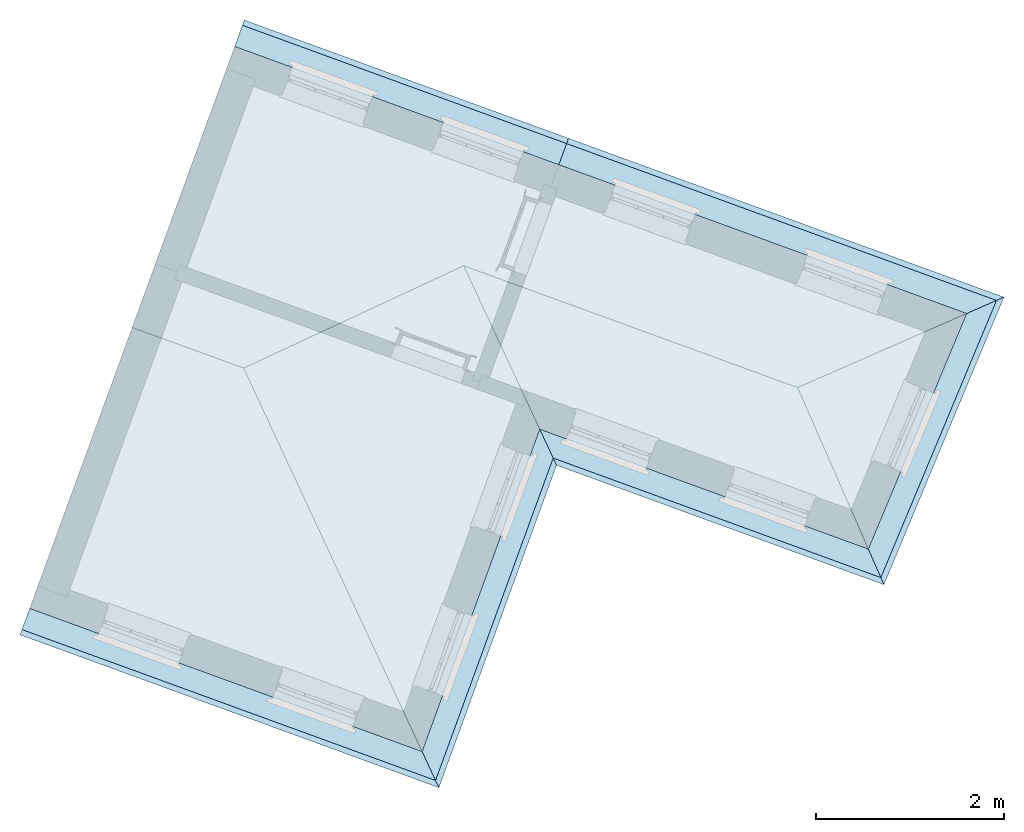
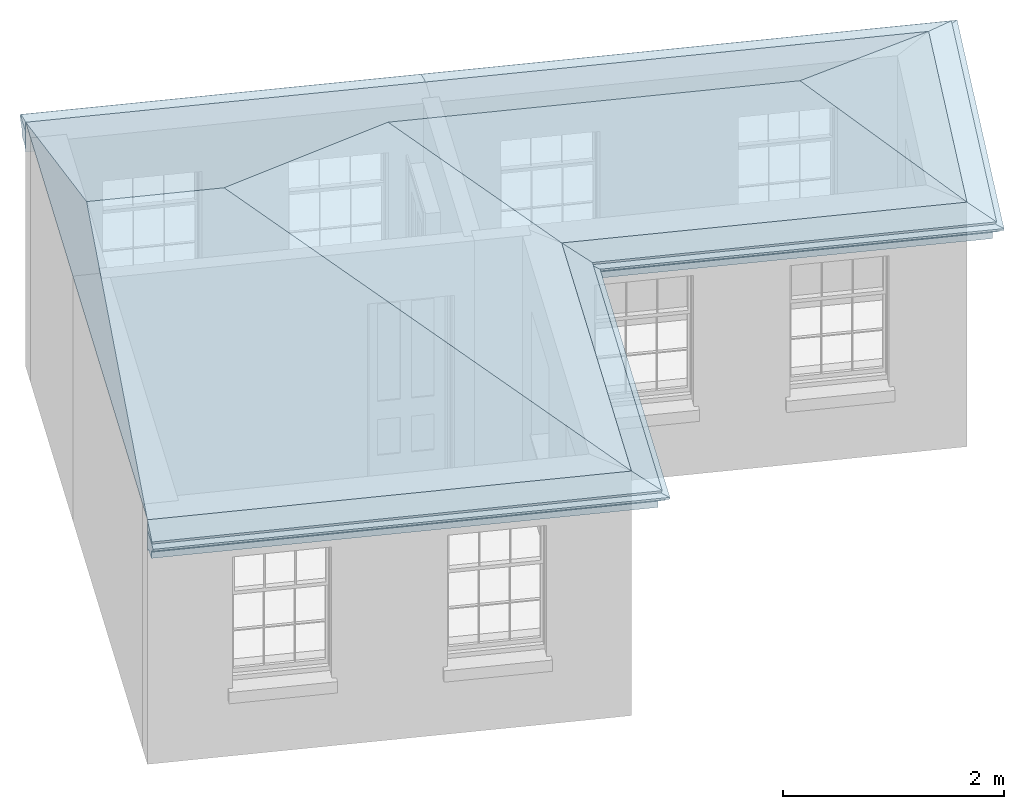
# One storey, part 3 of 3: 13 roofs.
"""IFC4 building model written with IfcOpenShell, lengths in metres."""

from ifc_helpers import new_model, si_unit, frame, origin, origin_with_axes, place, context, subcontext, project, spatial, polyline, outline, extrude, boolean, clip, halfspace, faceted_brep, material_profile, profile_set, profile_usage, type_object, element, save


model = new_model("IFC4")

# Units and contexts
model_context = context("Model", 3, world=origin_with_axes())
body_context = subcontext(model_context, "Body", "Model", "MODEL_VIEW")
ifc_project = project(units=[si_unit("PLANEANGLEUNIT", "RADIAN"), si_unit("MASSUNIT", "GRAM", prefix="KILO"), si_unit("FORCEUNIT", "NEWTON", prefix="KILO"), si_unit("LENGTHUNIT", "METRE"), si_unit("AREAUNIT", "SQUARE_METRE"), si_unit("VOLUMEUNIT", "CUBIC_METRE")], contexts=[model_context, model_context])

# Sites, building, storey
site_1_placement = place(None, origin_with_axes())
site_1 = spatial("IfcSite", under=ifc_project, at=site_1_placement, Name="Tamar")
site_2_placement = place(site_1_placement, origin_with_axes())
site_2 = spatial("IfcSite", under=site_1, at=site_2_placement, Name="Site plot-13", CompositionType="ELEMENT")
building_placement = place(None, origin_with_axes())
building = spatial("IfcBuilding", under=site_2, at=building_placement, Name="Building plot-13", CompositionType="ELEMENT")
storey_placement = place(None, frame((0.0, 0.0, 31.85), z_axis=(0.0, 0.0, 1.0), x_axis=(1.0, 0.0, 0.0)))
storey = spatial("IfcBuildingStorey", under=building, at=storey_placement, Name="plot-13 2", CompositionType="ELEMENT", Elevation=31.85)

# Roofs
ifc_material_profile_1 = material_profile(None, outline(polyline([(0.25, -0.11), (0.25, -0.33), (0.265, -0.33), (0.268, -0.318), (0.274, -0.309), (0.283, -0.303), (0.295, -0.3), (0.295, -0.285), (0.455, -0.285), (0.455, -0.205), (0.47, -0.205), (0.47, -0.19), (0.483, -0.189), (0.494, -0.186), (0.506, -0.179), (0.514, -0.17), (0.52, -0.16), (0.529, -0.149), (0.539, -0.143), (0.55, -0.14), (0.55, -0.12), (0.48, -0.11), (0.25, -0.11)])))
ifc_profile_set_1 = profile_set([ifc_material_profile_1])
ifc_profile_usage_1 = profile_usage(ifc_profile_set_1)
roof_type_1 = type_object("IfcRoofType", Name="eaves_0", PredefinedType="FREEFORM", material=ifc_profile_set_1)
roof_1_placement = place(storey_placement, frame((245.927870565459, 296.968939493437, 2.7), z_axis=(-0.939432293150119, 0.342734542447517, 0.0), x_axis=(-0.342734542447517, -0.939432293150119, 0.0)))
element("IfcRoof", 1, at=roof_1_placement, inside=storey, type_object=roof_type_1, material=ifc_profile_usage_1, Name="eaves_0", context=body_context, shape_type="Clipping", body=[
    clip(clip(extrude(outline(polyline([(0.25, -0.11), (0.25, -0.33), (0.265, -0.33), (0.268, -0.318), (0.274, -0.309), (0.283, -0.303), (0.295, -0.3), (0.295, -0.285), (0.455, -0.285), (0.455, -0.205), (0.47, -0.205), (0.47, -0.19), (0.483, -0.189), (0.494, -0.186), (0.506, -0.179), (0.514, -0.17), (0.52, -0.16), (0.529, -0.149), (0.539, -0.143), (0.55, -0.14), (0.55, -0.12), (0.48, -0.11), (0.25, -0.11)])), origin_with_axes(), (0.0, 0.0, 1.0), 6.19477741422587), halfspace(frame((0.0, 0.0, 5.19477741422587), z_axis=(4.60170436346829e-15, 0.0, -1.0), x_axis=(0.0, 1.0, 0.0)), True)), halfspace(frame((0.0, 0.0, 1.0), z_axis=(-0.707106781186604, 0.0, -0.707106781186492), x_axis=(0.0, 1.0, 0.0)), False)),
])
ifc_profile_usage_2 = profile_usage(ifc_profile_set_1)
roof_2_placement = place(storey_placement, frame((246.582667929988, 301.681443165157, 2.7), z_axis=(-0.342734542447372, -0.939432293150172, 0.0), x_axis=(0.939432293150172, -0.342734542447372, 0.0)))
element("IfcRoof", 2, at=roof_2_placement, inside=storey, type_object=roof_type_1, material=ifc_profile_usage_2, Name="eaves_0", context=body_context, shape_type="Clipping", body=[
    clip(clip(extrude(outline(polyline([(0.25, -0.11), (0.25, -0.33), (0.265, -0.33), (0.268, -0.318), (0.274, -0.309), (0.283, -0.303), (0.295, -0.3), (0.295, -0.285), (0.455, -0.285), (0.455, -0.205), (0.47, -0.205), (0.47, -0.19), (0.483, -0.189), (0.494, -0.186), (0.506, -0.179), (0.514, -0.17), (0.52, -0.16), (0.529, -0.149), (0.539, -0.143), (0.55, -0.14), (0.55, -0.12), (0.48, -0.11), (0.25, -0.11)])), origin_with_axes(), (0.0, 0.0, 1.0), 5.65149980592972), halfspace(frame((0.0, 0.0, 4.65149980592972), z_axis=(0.707106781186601, 0.0, -0.707106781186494), x_axis=(0.0, 1.0, 0.0)), True)), halfspace(frame((0.0, 0.0, 1.0), z_axis=(0.707106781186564, 0.0, -0.707106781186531), x_axis=(0.0, 1.0, 0.0)), False)),
])
ifc_profile_usage_3 = profile_usage(ifc_profile_set_1)
roof_3_placement = place(storey_placement, frame((250.686059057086, 299.119923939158, 2.7), z_axis=(-0.939432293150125, 0.342734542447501, 0.0), x_axis=(-0.342734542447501, -0.939432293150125, 0.0)))
element("IfcRoof", 3, at=roof_3_placement, inside=storey, type_object=roof_type_1, material=ifc_profile_usage_3, Name="eaves_0", context=body_context, shape_type="Clipping", body=[
    clip(clip(extrude(outline(polyline([(0.25, -0.11), (0.25, -0.33), (0.265, -0.33), (0.268, -0.318), (0.274, -0.309), (0.283, -0.303), (0.295, -0.3), (0.295, -0.285), (0.455, -0.285), (0.455, -0.205), (0.47, -0.205), (0.47, -0.19), (0.483, -0.189), (0.494, -0.186), (0.506, -0.179), (0.514, -0.17), (0.52, -0.16), (0.529, -0.149), (0.539, -0.143), (0.55, -0.14), (0.55, -0.12), (0.48, -0.11), (0.25, -0.11)])), origin_with_axes(), (0.0, 0.0, 1.0), 5.73277925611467), halfspace(frame((0.0, 0.0, 4.73277925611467), z_axis=(-0.707106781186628, 0.0, -0.707106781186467), x_axis=(0.0, 1.0, 0.0)), True)), halfspace(frame((0.0, 0.0, 1.0), z_axis=(-0.690822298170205, 0.0, -0.723024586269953), x_axis=(0.0, 1.0, 0.0)), False)),
])
ifc_profile_usage_4 = profile_usage(ifc_profile_set_1)
roof_4_placement = place(storey_placement, frame((250.984745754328, 302.429296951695, 2.7), z_axis=(-0.385150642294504, -0.922853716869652, 0.0), x_axis=(0.922853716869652, -0.385150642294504, 0.0)))
element("IfcRoof", 4, at=roof_4_placement, inside=storey, type_object=roof_type_1, material=ifc_profile_usage_4, Name="eaves_0", context=body_context, shape_type="Clipping", body=[
    clip(clip(extrude(outline(polyline([(0.25, -0.11), (0.25, -0.33), (0.265, -0.33), (0.268, -0.318), (0.274, -0.309), (0.283, -0.303), (0.295, -0.3), (0.295, -0.285), (0.455, -0.285), (0.455, -0.205), (0.47, -0.205), (0.47, -0.19), (0.483, -0.189), (0.494, -0.186), (0.506, -0.179), (0.514, -0.17), (0.52, -0.16), (0.529, -0.149), (0.539, -0.143), (0.55, -0.14), (0.55, -0.12), (0.48, -0.11), (0.25, -0.11)])), origin_with_axes(), (0.0, 0.0, 1.0), 4.21463566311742), halfspace(frame((0.0, 0.0, 3.21463566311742), z_axis=(0.690822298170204, 0.0, -0.723024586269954), x_axis=(0.0, 1.0, 0.0)), True)), halfspace(frame((0.0, 0.0, 1.0), z_axis=(-0.723024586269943, 0.0, -0.690822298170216), x_axis=(0.0, 1.0, 0.0)), False)),
])
ifc_profile_usage_5 = profile_usage(ifc_profile_set_1)
roof_5_placement = place(storey_placement, frame((245.567557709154, 303.342289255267, 2.7), z_axis=(0.939432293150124, -0.342734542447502, 0.0), x_axis=(0.342734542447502, 0.939432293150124, 0.0)))
element("IfcRoof", 5, at=roof_5_placement, inside=storey, type_object=roof_type_1, material=ifc_profile_usage_5, Name="eaves_0", context=body_context, shape_type="Clipping", body=[
    clip(clip(extrude(outline(polyline([(0.25, -0.11), (0.25, -0.33), (0.265, -0.33), (0.268, -0.318), (0.274, -0.309), (0.283, -0.303), (0.295, -0.3), (0.295, -0.285), (0.455, -0.285), (0.455, -0.205), (0.47, -0.205), (0.47, -0.19), (0.483, -0.189), (0.494, -0.186), (0.506, -0.179), (0.514, -0.17), (0.52, -0.16), (0.529, -0.149), (0.539, -0.143), (0.55, -0.14), (0.55, -0.12), (0.48, -0.11), (0.25, -0.11)])), origin_with_axes(), (0.0, 0.0, 1.0), 6.35646628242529), halfspace(frame((0.0, 0.0, 5.35646628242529), z_axis=(0.723024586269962, 0.0, -0.690822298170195), x_axis=(0.0, 1.0, 0.0)), True)), halfspace(frame((0.0, 0.0, 1.0), z_axis=(-6.72257048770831e-15, 0.0, -1.0), x_axis=(0.0, 1.0, 0.0)), False)),
])
ifc_profile_usage_6 = profile_usage(ifc_profile_set_1)
roof_6_placement = place(storey_placement, frame((242.118036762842, 304.600783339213, 2.7), z_axis=(0.939432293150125, -0.342734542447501, 0.0), x_axis=(0.342734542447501, 0.939432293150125, 0.0)))
element("IfcRoof", 6, at=roof_6_placement, inside=storey, type_object=roof_type_1, material=ifc_profile_usage_6, Name="eaves_0", context=body_context, shape_type="Clipping", body=[
    clip(clip(extrude(outline(polyline([(0.25, -0.11), (0.25, -0.33), (0.265, -0.33), (0.268, -0.318), (0.274, -0.309), (0.283, -0.303), (0.295, -0.3), (0.295, -0.285), (0.455, -0.285), (0.455, -0.205), (0.47, -0.205), (0.47, -0.19), (0.483, -0.189), (0.494, -0.186), (0.506, -0.179), (0.514, -0.17), (0.52, -0.16), (0.529, -0.149), (0.539, -0.143), (0.55, -0.14), (0.55, -0.12), (0.48, -0.11), (0.25, -0.11)])), origin_with_axes(), (0.0, 0.0, 1.0), 5.67192076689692), halfspace(frame((0.0, 0.0, 4.67192076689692), z_axis=(-5.39030285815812e-15, 0.0, -1.0), x_axis=(0.0, 1.0, 0.0)), True)), halfspace(frame((0.0, 0.0, 1.0), z_axis=(-5.39030285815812e-15, 0.0, -1.0), x_axis=(0.0, 1.0, 0.0)), False)),
])
ifc_material_profile_2 = material_profile(None, outline(polyline([(0.25, -0.11), (0.48, -0.11), (0.49, -0.08), (0.25, 0.0), (0.25, -0.11)])))
ifc_profile_set_2 = profile_set([ifc_material_profile_2])
ifc_profile_usage_7 = profile_usage(ifc_profile_set_2)
roof_type_2 = type_object("IfcRoofType", Name="eaves_1", PredefinedType="FREEFORM", material=ifc_profile_set_2)
roof_7_placement = place(storey_placement, frame((245.927870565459, 296.968939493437, 2.7), z_axis=(-0.939432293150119, 0.342734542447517, 0.0), x_axis=(-0.342734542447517, -0.939432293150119, 0.0)))
element("IfcRoof", 7, at=roof_7_placement, inside=storey, type_object=roof_type_2, material=ifc_profile_usage_7, Name="eaves_1", context=body_context, shape_type="Clipping", body=[
    clip(clip(extrude(outline(polyline([(0.25, -0.11), (0.48, -0.11), (0.49, -0.08), (0.25, 0.0), (0.25, -0.11)])), origin_with_axes(), (0.0, 0.0, 1.0), 6.19477741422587), halfspace(frame((0.0, 0.0, 5.19477741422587), z_axis=(4.60170436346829e-15, 0.0, -1.0), x_axis=(0.0, 1.0, 0.0)), True)), halfspace(frame((0.0, 0.0, 1.0), z_axis=(-0.707106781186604, 0.0, -0.707106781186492), x_axis=(0.0, 1.0, 0.0)), False)),
])
ifc_profile_usage_8 = profile_usage(ifc_profile_set_2)
roof_8_placement = place(storey_placement, frame((246.582667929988, 301.681443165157, 2.7), z_axis=(-0.342734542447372, -0.939432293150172, 0.0), x_axis=(0.939432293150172, -0.342734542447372, 0.0)))
element("IfcRoof", 8, at=roof_8_placement, inside=storey, type_object=roof_type_2, material=ifc_profile_usage_8, Name="eaves_1", context=body_context, shape_type="Clipping", body=[
    clip(clip(extrude(outline(polyline([(0.25, -0.11), (0.48, -0.11), (0.49, -0.08), (0.25, 0.0), (0.25, -0.11)])), origin_with_axes(), (0.0, 0.0, 1.0), 5.65149980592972), halfspace(frame((0.0, 0.0, 4.65149980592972), z_axis=(0.707106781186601, 0.0, -0.707106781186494), x_axis=(0.0, 1.0, 0.0)), True)), halfspace(frame((0.0, 0.0, 1.0), z_axis=(0.707106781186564, 0.0, -0.707106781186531), x_axis=(0.0, 1.0, 0.0)), False)),
])
ifc_profile_usage_9 = profile_usage(ifc_profile_set_2)
roof_9_placement = place(storey_placement, frame((250.686059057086, 299.119923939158, 2.7), z_axis=(-0.939432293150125, 0.342734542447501, 0.0), x_axis=(-0.342734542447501, -0.939432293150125, 0.0)))
element("IfcRoof", 9, at=roof_9_placement, inside=storey, type_object=roof_type_2, material=ifc_profile_usage_9, Name="eaves_1", context=body_context, shape_type="Clipping", body=[
    clip(clip(extrude(outline(polyline([(0.25, -0.11), (0.48, -0.11), (0.49, -0.08), (0.25, 0.0), (0.25, -0.11)])), origin_with_axes(), (0.0, 0.0, 1.0), 5.73277925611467), halfspace(frame((0.0, 0.0, 4.73277925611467), z_axis=(-0.707106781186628, 0.0, -0.707106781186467), x_axis=(0.0, 1.0, 0.0)), True)), halfspace(frame((0.0, 0.0, 1.0), z_axis=(-0.690822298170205, 0.0, -0.723024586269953), x_axis=(0.0, 1.0, 0.0)), False)),
])
ifc_profile_usage_10 = profile_usage(ifc_profile_set_2)
roof_10_placement = place(storey_placement, frame((250.984745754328, 302.429296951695, 2.7), z_axis=(-0.385150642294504, -0.922853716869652, 0.0), x_axis=(0.922853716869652, -0.385150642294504, 0.0)))
element("IfcRoof", 10, at=roof_10_placement, inside=storey, type_object=roof_type_2, material=ifc_profile_usage_10, Name="eaves_1", context=body_context, shape_type="Clipping", body=[
    clip(clip(extrude(outline(polyline([(0.25, -0.11), (0.48, -0.11), (0.49, -0.08), (0.25, 0.0), (0.25, -0.11)])), origin_with_axes(), (0.0, 0.0, 1.0), 4.21463566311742), halfspace(frame((0.0, 0.0, 3.21463566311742), z_axis=(0.690822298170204, 0.0, -0.723024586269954), x_axis=(0.0, 1.0, 0.0)), True)), halfspace(frame((0.0, 0.0, 1.0), z_axis=(-0.723024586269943, 0.0, -0.690822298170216), x_axis=(0.0, 1.0, 0.0)), False)),
])
ifc_profile_usage_11 = profile_usage(ifc_profile_set_2)
roof_11_placement = place(storey_placement, frame((245.567557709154, 303.342289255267, 2.7), z_axis=(0.939432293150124, -0.342734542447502, 0.0), x_axis=(0.342734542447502, 0.939432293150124, 0.0)))
element("IfcRoof", 11, at=roof_11_placement, inside=storey, type_object=roof_type_2, material=ifc_profile_usage_11, Name="eaves_1", context=body_context, shape_type="Clipping", body=[
    clip(clip(extrude(outline(polyline([(0.25, -0.11), (0.48, -0.11), (0.49, -0.08), (0.25, 0.0), (0.25, -0.11)])), origin_with_axes(), (0.0, 0.0, 1.0), 6.35646628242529), halfspace(frame((0.0, 0.0, 5.35646628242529), z_axis=(0.723024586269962, 0.0, -0.690822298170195), x_axis=(0.0, 1.0, 0.0)), True)), halfspace(frame((0.0, 0.0, 1.0), z_axis=(-6.72257048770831e-15, 0.0, -1.0), x_axis=(0.0, 1.0, 0.0)), False)),
])
ifc_profile_usage_12 = profile_usage(ifc_profile_set_2)
roof_12_placement = place(storey_placement, frame((242.118036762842, 304.600783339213, 2.7), z_axis=(0.939432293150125, -0.342734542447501, 0.0), x_axis=(0.342734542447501, 0.939432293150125, 0.0)))
element("IfcRoof", 12, at=roof_12_placement, inside=storey, type_object=roof_type_2, material=ifc_profile_usage_12, Name="eaves_1", context=body_context, shape_type="Clipping", body=[
    clip(clip(extrude(outline(polyline([(0.25, -0.11), (0.48, -0.11), (0.49, -0.08), (0.25, 0.0), (0.25, -0.11)])), origin_with_axes(), (0.0, 0.0, 1.0), 5.67192076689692), halfspace(frame((0.0, 0.0, 4.67192076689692), z_axis=(-5.39030285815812e-15, 0.0, -1.0), x_axis=(0.0, 1.0, 0.0)), True)), halfspace(frame((0.0, 0.0, 1.0), z_axis=(-5.39030285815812e-15, 0.0, -1.0), x_axis=(0.0, 1.0, 0.0)), False)),
])
roof_13_placement = place(building_placement, origin())
element("IfcRoof", 13, at=roof_13_placement, inside=storey, Name="Roof", PredefinedType="FREEFORM", context=body_context, shape_type="CSG", body=[
    boolean("UNION", faceted_brep([(247.31872, 302.969528, 34.55), (243.143153, 304.492907, 34.55), (242.052599, 301.503709, 35.867994), (243.238969, 301.070884, 35.867994), (240.962045, 298.514511, 34.55), (245.137613, 296.991132, 34.55)], [[[0, 1, 2, 3]], [[4, 5, 3, 2]], [[5, 4, 1, 0]], [[5, 0, 3]], [[1, 4, 2]]]), faceted_brep([(250.931085, 301.651624, 34.55), (243.143153, 304.492907, 34.55), (242.678347, 303.218877, 35.111744), (249.132861, 300.864067, 35.111744), (242.21354, 301.944848, 34.55), (249.885341, 299.145933, 34.55)], [[[0, 1, 2, 3]], [[4, 5, 3, 2]], [[5, 4, 1, 0]], [[5, 0, 3]], [[1, 4, 2]]])),
])

save(model, "model.ifc")
